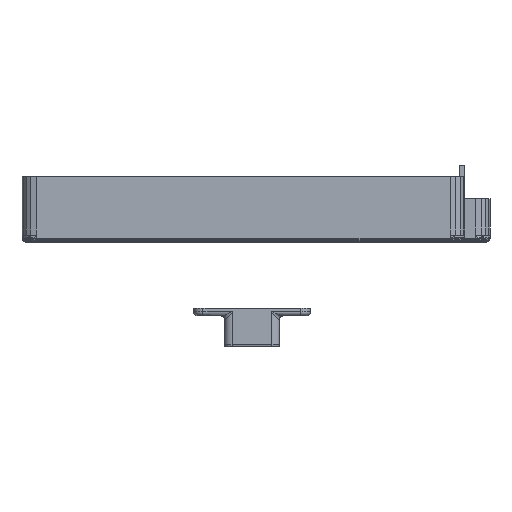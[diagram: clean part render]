
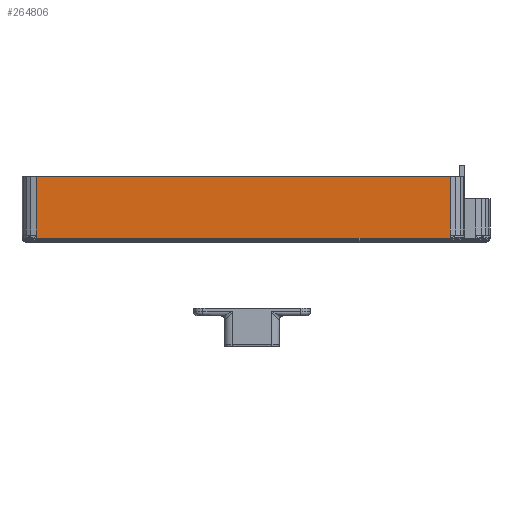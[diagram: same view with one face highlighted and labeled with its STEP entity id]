
A CAD part, front view. The second image highlights one B-rep face of the part: STEP entity #264806.
In plain terms, the highlighted planar face has unit normal (0, -1, 0).
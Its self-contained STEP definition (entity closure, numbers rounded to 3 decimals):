
#5934=PLANE($,#285417);
#26481=FACE_OUTER_BOUND($,#47095,.T.);
#47095=EDGE_LOOP($,(#206913,#206914,#206915,#206916,#206917,#206918));
#62603=LINE($,#378945,#98771);
#72436=LINE($,#399027,#108604);
#72562=LINE($,#399272,#108730);
#72566=LINE($,#399279,#108734);
#72567=LINE($,#399281,#108735);
#72568=LINE($,#399282,#108736);
#98771=VECTOR($,#300957,10.654);
#108604=VECTOR($,#322042,1.5);
#108730=VECTOR($,#322296,0.08);
#108734=VECTOR($,#322306,1.5);
#108735=VECTOR($,#322307,0.08);
#108736=VECTOR($,#322308,10.654);
#135000=VERTEX_POINT($,#378942);
#135001=VERTEX_POINT($,#378944);
#135678=VERTEX_POINT($,#381308);
#139162=VERTEX_POINT($,#398810);
#139206=VERTEX_POINT($,#398953);
#139282=VERTEX_POINT($,#399280);
#150740=EDGE_CURVE($,#135001,#135000,#62603,.T.);
#160585=EDGE_CURVE($,#139206,#135001,#72436,.T.);
#160711=EDGE_CURVE($,#139162,#139206,#72562,.T.);
#160715=EDGE_CURVE($,#135678,#135000,#72566,.T.);
#160716=EDGE_CURVE($,#139282,#135678,#72567,.T.);
#160717=EDGE_CURVE($,#139162,#139282,#72568,.T.);
#206913=ORIENTED_EDGE($,*,*,#150740,.T.);
#206914=ORIENTED_EDGE($,*,*,#160715,.F.);
#206915=ORIENTED_EDGE($,*,*,#160716,.F.);
#206916=ORIENTED_EDGE($,*,*,#160717,.F.);
#206917=ORIENTED_EDGE($,*,*,#160711,.T.);
#206918=ORIENTED_EDGE($,*,*,#160585,.T.);
#264806=ADVANCED_FACE($,(#26481),#5934,.F.);
#285417=AXIS2_PLACEMENT_3D($,#399278,#322304,#322305);
#300957=DIRECTION($,(-1.,0.,0.));
#322042=DIRECTION($,(0.,0.,1.));
#322296=DIRECTION($,(0.,0.,1.));
#322304=DIRECTION('center_axis',(0.,1.,0.));
#322305=DIRECTION('ref_axis',(0.,0.,1.));
#322306=DIRECTION($,(0.,0.,1.));
#322307=DIRECTION($,(0.,0.,1.));
#322308=DIRECTION($,(-1.,0.,0.));
#378942=CARTESIAN_POINT('',(-13.605,-3.284,1.68));
#378944=CARTESIAN_POINT('',(-2.951,-3.284,1.68));
#378945=CARTESIAN_POINT($,(-8.648,-3.284,1.68));
#381308=CARTESIAN_POINT('',(-13.605,-3.284,0.18));
#398810=CARTESIAN_POINT('',(-2.951,-3.284,0.1));
#398953=CARTESIAN_POINT('',(-2.951,-3.284,0.18));
#399027=CARTESIAN_POINT($,(-2.951,-3.284,0.18));
#399272=CARTESIAN_POINT($,(-2.951,-3.284,0.1));
#399278=CARTESIAN_POINT('Origin',(-8.278,-3.284,0.605));
#399279=CARTESIAN_POINT($,(-13.605,-3.284,0.1));
#399280=CARTESIAN_POINT('',(-13.605,-3.284,0.1));
#399281=CARTESIAN_POINT($,(-13.605,-3.284,0.1));
#399282=CARTESIAN_POINT($,(-2.951,-3.284,0.1));
